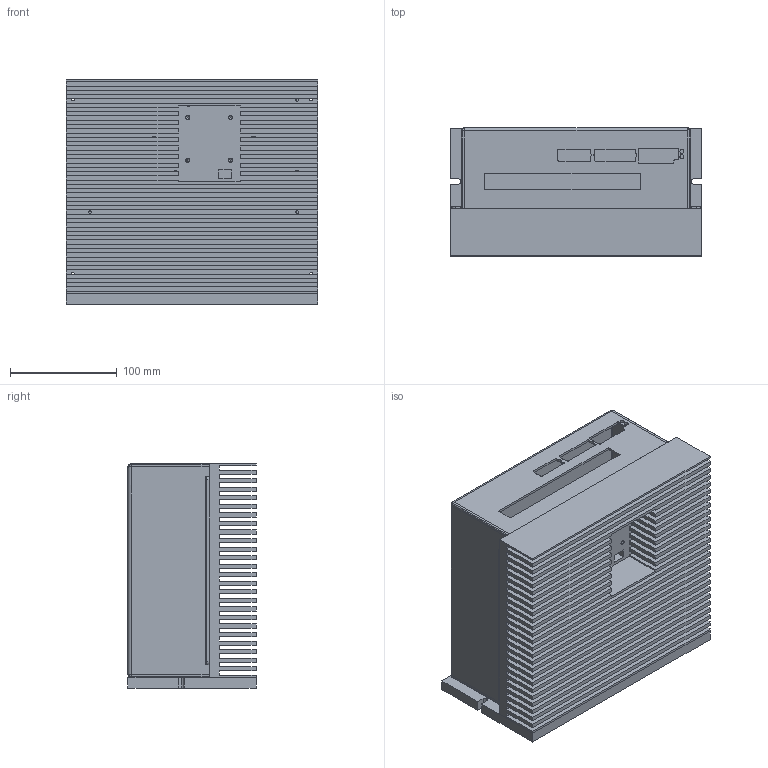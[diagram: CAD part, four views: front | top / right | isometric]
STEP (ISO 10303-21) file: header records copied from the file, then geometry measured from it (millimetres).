
FILE_DESCRIPTION (( 'STEP AP214' ), '1' );
FILE_NAME ('1111.STEP', '2023-12-08T09:14:13', ( '' ), ( '' ), 'SwSTEP 2.0', 'SolidWorks 2018', '' );
FILE_SCHEMA (( 'AUTOMOTIVE_DESIGN' ));
Length unit declared in the file: millimetre
Products named in the file (4): 1111; 235x150x45 底座散热片; 235x150x45 底座散热片2; 235x150x45 俋褲 REV2
Assembly tree (3 placements, depth 2):
  1111
    235x150x45 底座散热片
    235x150x45 俋褲 REV2
    235x150x45 底座散热片2
Bounding box: 235 x 120 x 210 mm (x, y, z)
Volume: 1640829 mm3; surface area: 746622.5 mm2
Topology: 3 solids, 3 shells, 467 faces, 1280 edges, 789 vertices
Faces by surface type: plane 256, cylinder 111, cone 80, bspline 20
Entity records: 15858 total; most frequent: CARTESIAN_POINT 3414, ORIENTED_EDGE 2500, DIRECTION 2386, EDGE_CURVE 1250, VECTOR 932, LINE 932, VERTEX_POINT 789, AXIS2_PLACEMENT_3D 727
